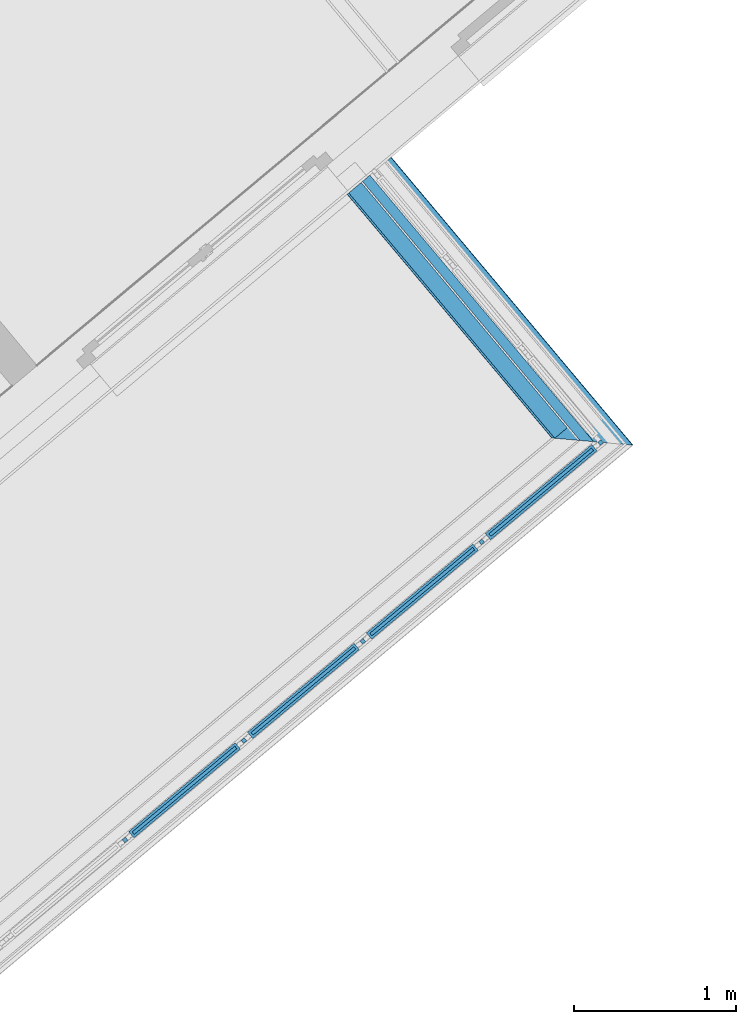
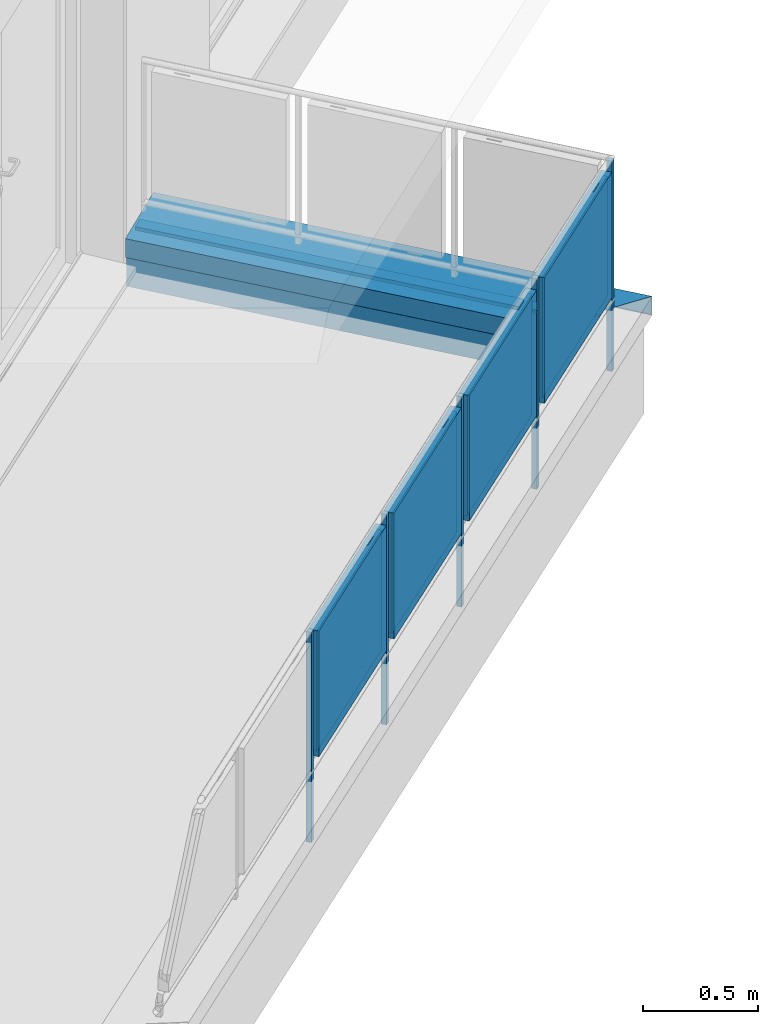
# One storey, part 23 of 53: 17 building element parts, 2 elements without a shape of their own.
"""IFC4 building model written with IfcOpenShell, lengths in metres."""

from ifc_helpers import new_model, entity, si_unit, converted_unit, derived_unit, direction, frame, origin_with_axes, place, context, subcontext, project, spatial, polygons, material, type_object, element, aggregate, save


model = new_model("IFC4")

# Units and contexts
model_context = context("Model", 3, precision=1e-05, world=origin_with_axes(), true_north=direction((0.0, 1.0)))
body_context = subcontext(model_context, "Body", "Model", "MODEL_VIEW")
ifc_project = project(units=[si_unit("LENGTHUNIT", "METRE"), si_unit("AREAUNIT", "SQUARE_METRE"), si_unit("VOLUMEUNIT", "CUBIC_METRE"), converted_unit("PLANEANGLEUNIT", "DEGREE", entity("IfcPlaneAngleMeasure", 0.0174532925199), si_unit("PLANEANGLEUNIT", "RADIAN"), dimensions=[0, 0, 0, 0, 0, 0, 0]), converted_unit("TIMEUNIT", "Year", entity("IfcTimeMeasure", 31556926.0), si_unit("TIMEUNIT", "SECOND"), dimensions=[0, 0, 1, 0, 0, 0, 0]), si_unit("MASSUNIT", "GRAM", prefix="KILO"), si_unit("THERMODYNAMICTEMPERATUREUNIT", "DEGREE_CELSIUS"), si_unit("LUMINOUSINTENSITYUNIT", "LUMEN"), si_unit("ENERGYUNIT", "JOULE", prefix="MEGA"), derived_unit("THERMALCONDUCTANCEUNIT", [(si_unit("POWERUNIT", "WATT"), 1), (si_unit("LENGTHUNIT", "METRE"), -1), (si_unit("THERMODYNAMICTEMPERATUREUNIT", "KELVIN"), -1)]), derived_unit("SPECIFICHEATCAPACITYUNIT", [(si_unit("ENERGYUNIT", "JOULE"), 1), (si_unit("MASSUNIT", "GRAM", prefix="KILO"), -1), (si_unit("THERMODYNAMICTEMPERATUREUNIT", "KELVIN"), -1)]), derived_unit("MASSDENSITYUNIT", [(si_unit("MASSUNIT", "GRAM", prefix="KILO"), 1), (si_unit("VOLUMEUNIT", "CUBIC_METRE"), -1)])], contexts=[model_context])

# Site, building, storey
site_placement = place(None, frame((-0.00153261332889, -0.00661245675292, 0.0), z_axis=(0.0, 0.0, 1.0), x_axis=(1.0, 0.0, 0.0)))
site = spatial("IfcSite", under=ifc_project, at=site_placement, Name="Gelände", CompositionType="ELEMENT")
building_placement = place(site_placement, origin_with_axes())
building = spatial("IfcBuilding", under=site, at=building_placement, Name="Gebäude", CompositionType="ELEMENT")
storey_placement = place(building_placement, frame((0.0, 0.0, 2.74), z_axis=(0.0, 0.0, 1.0), x_axis=(1.0, 0.0, 0.0)))
storey = spatial("IfcBuildingStorey", under=building, at=storey_placement, Name="OG1", CompositionType="ELEMENT", Elevation=2.74)

# Wall, building element parts
wall_type = type_object("IfcWallType", Name="Bauteil - Attika Balkon 356 x 610", PredefinedType="NOTDEFINED")
wall_placement = place(storey_placement, frame((7.00366353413, 12.2268681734, -0.2), z_axis=(0.0, 0.0, 1.0), x_axis=(-0.643026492, 0.76584393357, 0.0)))
wall = element("IfcWall", 1, at=wall_placement, inside=storey, type_object=wall_type, Name="Wand-003", PredefinedType="NOTDEFINED")
ifc_material_1 = material(Name="Stahl")
building_element_part_1_placement = place(wall_placement, origin_with_axes())
building_element_part_1 = element("IfcBuildingElementPart", 2, at=building_element_part_1_placement, material=ifc_material_1, Name="Stahl", PredefinedType="NOTDEFINED", context=body_context, shape_type="Tessellation", body=[
    polygons([(0.113856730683, 0.113600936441, 0.497561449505), (0.112897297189, 0.112643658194, 0.496604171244), (0.113852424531, 0.11168637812, 0.497561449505), (2.07193710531, 0.113600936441, 0.497561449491), (2.07193710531, 0.112643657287, 0.496604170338), (2.07193710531, 0.103427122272, 0.505820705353), (0.105574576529, 0.103427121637, 0.505820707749), (0.11140838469, 0.109247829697, 0.499999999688), (0.1124955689, 0.110332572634, 0.498915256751), (0.1138493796, 0.110332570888, 0.498915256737), (0.113856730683, 0.113600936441, 0.498915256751), (0.113853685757, 0.112247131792, 0.498915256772), (0.113856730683, 0.113600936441, 0.499999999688), (0.113856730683, 0.113600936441, 0.506731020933), (0.113856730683, 0.113600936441, 0.509099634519), (0.113856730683, 0.113600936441, 0.511410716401), (0.113856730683, 0.113600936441, 0.519273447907), (0.113856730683, 0.113600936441, 0.560000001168), (0.113856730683, 0.113600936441, 0.575576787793), (0.113856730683, 0.113600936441, 0.57982217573), (0.113856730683, 0.113600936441, 0.581921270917), (0.113856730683, 0.113600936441, 0.584015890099), (0.113856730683, 0.113600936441, 0.586106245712), (0.113856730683, 0.113600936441, 0.595846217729), (0.113856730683, 0.113600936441, 0.597151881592), (2.07193710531, 0.113600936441, 0.597151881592), (2.07193710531, -0.242707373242, 0.610055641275), (2.07193710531, -0.242707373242, 0.510056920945), (2.07193710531, -0.241750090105, 0.509099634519), (2.07193710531, -0.232580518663, 0.518269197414), (2.07193710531, -0.233490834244, 0.519273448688), (2.07193710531, -0.241353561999, 0.511410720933), (2.07193710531, -0.24135992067, 0.60865214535), (2.07193710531, -0.23927649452, 0.608570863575), (2.07193710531, 0.112247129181, 0.595846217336), (2.07193710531, 0.112247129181, 0.498915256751), (2.07193710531, 0.104431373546, 0.506731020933), (0.104666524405, 0.104431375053, 0.506731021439), (0.111412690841, 0.111162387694, 0.499999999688), (0.112499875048, 0.112247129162, 0.498915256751), (0.113853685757, 0.112247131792, 0.499999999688), (0.113853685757, 0.112247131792, 0.506731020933), (0.113853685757, 0.112247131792, 0.509099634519), (0.113853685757, 0.112247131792, 0.511410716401), (0.113853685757, 0.112247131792, 0.519273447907), (0.113853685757, 0.112247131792, 0.560000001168), (0.113853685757, 0.112247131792, 0.575576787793), (0.113853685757, 0.112247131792, 0.57982217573), (0.113853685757, 0.112247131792, 0.581921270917), (0.113853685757, 0.112247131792, 0.584015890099), (0.113853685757, 0.112247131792, 0.586106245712), (0.113853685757, 0.112247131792, 0.595846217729), (0.113772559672, 0.076177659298, 0.597151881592), (-0.202162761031, -0.201708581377, 0.608570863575), (-0.204412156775, -0.203952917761, 0.608652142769), (-0.243253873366, -0.242707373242, 0.610055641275), (-0.204499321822, -0.24270737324, 0.608652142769), (-0.241906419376, -0.242707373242, 0.60865214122), (-0.241906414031, -0.242707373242, 0.608570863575), (-0.241905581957, -0.242707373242, 0.595846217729), (-0.241904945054, -0.242707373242, 0.586106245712), (-0.241904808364, -0.242707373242, 0.584015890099), (-0.241904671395, -0.242707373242, 0.581921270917), (-0.241904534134, -0.242707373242, 0.57982217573), (-0.241904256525, -0.242707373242, 0.575576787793), (-0.241903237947, -0.242707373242, 0.560000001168), (-0.241900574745, -0.242707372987, 0.519273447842), (-0.24190006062, -0.242707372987, 0.511410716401), (-0.239985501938, -0.242707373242, 0.511410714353), (-0.241339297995, -0.242707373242, 0.510056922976), (-0.242294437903, -0.241750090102, 0.509099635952), (-0.239978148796, -0.239439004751, 0.511410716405), (-0.233104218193, -0.232580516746, 0.518269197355), (-0.234016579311, -0.233490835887, 0.519273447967), (-0.233108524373, -0.234495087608, 0.518269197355), (-0.239982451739, -0.241353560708, 0.511410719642), (-0.241897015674, -0.241353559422, 0.511410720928), (-0.241897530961, -0.241354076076, 0.519273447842), (-0.241900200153, -0.241356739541, 0.560000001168), (-0.24190122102, -0.241357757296, 0.575576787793), (-0.241901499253, -0.241358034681, 0.57982217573), (-0.241901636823, -0.241358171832, 0.581921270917), (-0.241901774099, -0.24135830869, 0.584015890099), (-0.241901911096, -0.24135844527, 0.586106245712), (-0.241902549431, -0.24135908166, 0.595846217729), (-0.241903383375, -0.241359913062, 0.608570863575), (-0.241903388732, -0.241359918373, 0.608652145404), (-0.204496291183, -0.24135992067, 0.608652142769), (-0.202247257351, -0.23927649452, 0.608570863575)], [[[1, 2, 3]], [[1, 4, 5, 2]], [[5, 6, 7, 8, 9, 10, 3, 2]], [[11, 1, 3, 10, 12]], [[1, 11, 13, 14, 15, 16, 17, 18, 19, 20, 21, 22, 23, 24, 25, 26, 4]], [[5, 4, 26, 27, 28, 29, 30, 31, 32, 33, 34, 35, 36, 37, 6]], [[6, 37, 38, 7]], [[7, 38, 39, 8]], [[39, 40, 9, 8]], [[40, 12, 10, 9]], [[13, 11, 12, 41]], [[13, 41, 42, 14]], [[15, 14, 42, 43]], [[16, 15, 43, 44]], [[17, 16, 44, 45]], [[18, 17, 45, 46]], [[19, 18, 46, 47]], [[20, 19, 47, 48]], [[21, 20, 48, 49]], [[22, 21, 49, 50]], [[23, 22, 50, 51]], [[24, 23, 51, 52]], [[25, 24, 52, 53]], [[26, 25, 54, 55, 56, 27]], [[28, 27, 56, 57, 58, 59, 60, 61, 62, 63, 64, 65, 66, 67, 68, 69, 70]], [[29, 28, 70, 71]], [[30, 29, 71, 72, 73]], [[31, 30, 73, 74]], [[32, 31, 74, 75, 76]], [[33, 32, 76, 77, 78, 79, 80, 81, 82, 83, 84, 85, 86, 87, 88]], [[34, 33, 88, 89]], [[35, 34, 89, 53, 52]], [[36, 35, 52, 51, 50, 49, 48, 47, 46, 45, 44, 43, 42, 41, 12]], [[37, 36, 12, 40, 39, 38]], [[54, 25, 53, 89]], [[55, 54, 89, 88]], [[55, 88, 57, 56]], [[57, 88, 87, 58]], [[87, 86, 59, 58]], [[85, 60, 59, 86]], [[84, 61, 60, 85]], [[84, 83, 62, 61]], [[83, 82, 63, 62]], [[82, 81, 64, 63]], [[81, 80, 65, 64]], [[80, 79, 66, 65]], [[79, 78, 67, 66]], [[78, 77, 68, 67]], [[77, 76, 69, 68]], [[76, 72, 71, 70, 69]], [[76, 75, 73, 72]], [[74, 73, 75]]], closed=True),
])
ifc_material_2 = material(Name="Holzwerkstoff")
building_element_part_2_placement = place(wall_placement, origin_with_axes())
building_element_part_2 = element("IfcBuildingElementPart", 3, at=building_element_part_2_placement, material=ifc_material_2, Name="Holzwerkstoff", PredefinedType="NOTDEFINED", context=body_context, shape_type="Tessellation", body=[
    polygons([(2.07193710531, 0.112247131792, 0.5958462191), (2.07193710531, 0.111539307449, 0.575576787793), (0.111790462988, 0.111539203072, 0.575576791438), (0.111939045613, 0.111687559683, 0.579822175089), (0.112012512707, 0.111760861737, 0.581921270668), (0.112085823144, 0.11183400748, 0.584015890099), (0.112158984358, 0.111907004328, 0.586106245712), (0.112499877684, 0.112247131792, 0.5958462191), (2.07193710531, -0.0100326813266, 0.579822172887), (2.07193710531, -0.23927649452, 0.608570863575), (2.07193710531, -0.23999998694, 0.587852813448), (2.07193710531, -0.189984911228, 0.586106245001), (2.07193710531, -0.13012497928, 0.584015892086), (2.07193710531, -0.0701429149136, 0.581921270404), (0.111665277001, -0.0100326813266, 0.579822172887), (0.111603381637, -0.0701429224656, 0.581921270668), (0.111541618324, -0.130124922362, 0.584015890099), (0.111479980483, -0.189984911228, 0.586106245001), (0.111428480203, -0.23999998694, 0.587852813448), (0.11170824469, -0.239720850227, 0.5958462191), (-0.239815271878, -0.239276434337, 0.608570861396)], [[[1, 2, 3, 4, 5, 6, 7, 8]], [[9, 2, 1, 10, 11, 12, 13, 14]], [[2, 9, 15, 3]], [[4, 3, 15]], [[5, 4, 15, 16]], [[6, 5, 16, 17]], [[7, 6, 17, 18]], [[8, 7, 18, 19, 20]], [[1, 8, 21, 10]], [[11, 10, 21, 20, 19]], [[12, 11, 19, 18]], [[13, 12, 18, 17]], [[14, 13, 17, 16]], [[9, 14, 16, 15]], [[21, 8, 20]]], closed=True),
])
ifc_material_3 = material(Name="EPS 1")
building_element_part_3_placement = place(wall_placement, origin_with_axes())
building_element_part_3 = element("IfcBuildingElementPart", 4, at=building_element_part_3_placement, material=ifc_material_3, Name="EPS 1", PredefinedType="NOTDEFINED", context=body_context, shape_type="Tessellation", body=[
    polygons([(0.100225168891, 0.0999999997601, 0.560000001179), (0.100000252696, -2.39907649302e-10, 0.560000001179), (2.07193710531, -2.39907649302e-10, 0.560000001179), (2.07193710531, 0.0999999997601, 0.560000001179), (0.100000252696, -2.39905872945e-10, 0.519273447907), (0.100225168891, 0.0999999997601, 0.519273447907), (0.100000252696, -2.39905872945e-10, 0.511410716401), (0.100000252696, -2.39905872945e-10, 0.509099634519), (0.100000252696, -2.39905872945e-10, 0.506731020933), (0.100000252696, -2.39905872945e-10, 0.499999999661), (0.100000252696, -2.39905872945e-10, 0.498915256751), (0.100000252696, -2.39905872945e-10, 0.496604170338), (0.100000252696, -2.39907649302e-10, 0.334999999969), (2.07193710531, -2.39907649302e-10, 0.334999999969), (2.07193710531, 0.0999999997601, 0.334999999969), (0.100225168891, 0.0999999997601, 0.334999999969), (0.100225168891, 0.0999999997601, 0.496604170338), (0.100225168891, 0.0999999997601, 0.498915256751), (0.100225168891, 0.0999999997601, 0.499999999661), (0.100225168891, 0.0999999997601, 0.506731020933), (0.100225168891, 0.0999999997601, 0.509099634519), (0.100225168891, 0.0999999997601, 0.511410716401)], [[[1, 2, 3, 4]], [[5, 2, 1, 6]], [[2, 5, 7, 8, 9, 10, 11, 12, 13, 14, 3]], [[14, 15, 4, 3]], [[6, 1, 4, 15, 16, 17, 18, 19, 20, 21, 22]], [[5, 6, 22, 7]], [[7, 22, 21, 8]], [[8, 21, 20, 9]], [[9, 20, 19, 10]], [[10, 19, 18, 11]], [[11, 18, 17, 12]], [[12, 17, 16, 13]], [[13, 16, 15, 14]]], closed=True),
])
ifc_material_4 = material(Name="Vollholz")
building_element_part_4_placement = place(wall_placement, origin_with_axes())
building_element_part_4 = element("IfcBuildingElementPart", 5, at=building_element_part_4_placement, material=ifc_material_4, Name="Vollholz", PredefinedType="NOTDEFINED", context=body_context, shape_type="Tessellation", body=[
    polygons([(-0.0100552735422, -0.0100326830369, 0.579822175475), (-0.0703008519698, -0.0701429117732, 0.581921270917), (2.07193710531, -0.0701429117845, 0.581921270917), (2.07193710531, -0.0100326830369, 0.579822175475), (-0.0101904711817, -0.0701429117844, 0.579822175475), (-0.0102140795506, -0.0701429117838, 0.575576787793), (-0.0103007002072, -0.0701429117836, 0.560000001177), (2.07193710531, -0.0701429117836, 0.560000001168), (2.07193710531, -0.0101429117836, 0.560000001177), (-0.0100789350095, -0.0100562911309, 0.575576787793), (-0.01016575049, -0.0101429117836, 0.560000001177)], [[[1, 2, 3, 4]], [[5, 2, 1]], [[2, 5, 6, 7, 8, 3]], [[9, 4, 3, 8]], [[10, 1, 4, 9, 11]], [[5, 1, 10, 6]], [[6, 10, 11, 7]], [[7, 11, 9, 8]]], closed=True),
])
aggregate(wall, [building_element_part_1, building_element_part_2, building_element_part_3, building_element_part_4])

# Space
space_placement = place(storey_placement, frame((5.82112883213, 13.939405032, 0.22), z_axis=(0.0, 0.0, 1.0), x_axis=(-0.766948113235, -0.641709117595, 0.0)))
space = spatial("IfcSpace", under=storey, at=space_placement, CompositionType="ELEMENT", PredefinedType="NOTDEFINED")

# Railing, building element parts
railing_type = type_object("IfcRailingType", Name="Geländerart", PredefinedType="NOTDEFINED")
railing_placement = place(space_placement, frame((8.7233739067, 0.0, 0.16), z_axis=(0.0, 0.0, 1.0), x_axis=(-0.766948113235, 0.641709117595, 0.0)))
railing = element("IfcRailing", 6, at=railing_placement, inside=space, type_object=railing_type, Name="Geländer - 001", PredefinedType="NOTDEFINED")
ifc_material_5 = material(Name="Aluminium")
building_element_part_5_placement = place(railing_placement, origin_with_axes())
building_element_part_5 = element("IfcBuildingElementPart", 7, at=building_element_part_5_placement, material=ifc_material_5, Name="Aluminium", PredefinedType="NOTDEFINED", context=body_context, shape_type="Tessellation", body=[
    polygons([(8.03183579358, 3.86996727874, -0.3), (8.01580323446, 3.88914948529, -0.3), (8.01580323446, 3.88914948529, 0.82), (8.03183579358, 3.86996727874, 0.82), (8.01265358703, 3.85393471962, -0.3), (7.99662102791, 3.87311692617, -0.3), (7.99662102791, 3.87311692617, 0.82), (8.01265358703, 3.85393471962, 0.82)], [[[1, 2, 3, 4]], [[1, 5, 6, 2]], [[2, 6, 7, 3]], [[4, 3, 7, 8]], [[5, 1, 4, 8]], [[6, 5, 8, 7]]], closed=True),
])
building_element_part_6_placement = place(railing_placement, origin_with_axes())
building_element_part_6 = element("IfcBuildingElementPart", 8, at=building_element_part_6_placement, material=ifc_material_5, Name="Aluminium", PredefinedType="NOTDEFINED", context=body_context, shape_type="Tessellation", body=[
    polygons([(5.10487304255, 1.42360099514, -0.3), (5.08884048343, 1.44278320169, -0.3), (5.08884048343, 1.44278320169, 0.82), (5.10487304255, 1.42360099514, 0.82), (5.085690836, 1.40756843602, -0.3), (5.06965827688, 1.42675064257, -0.3), (5.06965827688, 1.42675064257, 0.82), (5.085690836, 1.40756843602, 0.82)], [[[1, 2, 3, 4]], [[1, 5, 6, 2]], [[2, 6, 7, 3]], [[4, 3, 7, 8]], [[5, 1, 4, 8]], [[6, 5, 8, 7]]], closed=True),
])
ifc_material_6 = material(Name="Profilit")
building_element_part_7_placement = place(railing_placement, origin_with_axes())
building_element_part_7 = element("IfcBuildingElementPart", 9, at=building_element_part_7_placement, material=ifc_material_6, Name="Profilit", PredefinedType="NOTDEFINED", context=body_context, shape_type="Tessellation", body=[
    polygons([(5.7627195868, 2.00275561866, 0.135), (5.1307263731, 1.47453335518, 0.135), (5.1307263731, 1.47453335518, 0.775), (5.7627195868, 2.00275561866, 0.775), (5.14355242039, 1.45918758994, 0.135), (5.7755456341, 1.98740985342, 0.135), (5.14355242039, 1.45918758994, 0.775), (5.7755456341, 1.98740985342, 0.775)], [[[1, 2, 3, 4]], [[5, 2, 1, 6]], [[7, 3, 2, 5]], [[4, 3, 7, 8]], [[1, 4, 8, 6]], [[7, 5, 6, 8]]], closed=True),
])
building_element_part_8_placement = place(railing_placement, origin_with_axes())
building_element_part_8 = element("IfcBuildingElementPart", 10, at=building_element_part_8_placement, material=ifc_material_5, Name="Aluminium", PredefinedType="NOTDEFINED", context=body_context, shape_type="Tessellation", body=[
    polygons([(5.2007556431, 1.52328939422, 0.12), (5.25446582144, 1.56818055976, 0.12), (5.25446582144, 1.56818055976, 0.095), (5.2007556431, 1.52328939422, 0.095), (5.20396215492, 1.51945295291, 0.12), (5.25767233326, 1.56434411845, 0.12), (5.25767233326, 1.56434411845, 0.095), (5.20396215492, 1.51945295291, 0.095)], [[[1, 2, 3, 4]], [[5, 6, 2, 1]], [[2, 6, 7, 3]], [[4, 3, 7, 8]], [[1, 4, 8, 5]], [[8, 7, 6, 5]]], closed=True),
    polygons([(5.70230985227, 1.94249025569, 0.79), (5.64859967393, 1.89759909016, 0.79), (5.64859967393, 1.89759909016, 0.795), (5.70230985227, 1.94249025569, 0.795), (5.70551636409, 1.93865381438, 0.79), (5.65180618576, 1.89376264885, 0.79), (5.65180618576, 1.89376264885, 0.795), (5.70551636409, 1.93865381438, 0.795)], [[[1, 2, 3, 4]], [[5, 6, 2, 1]], [[2, 6, 7, 3]], [[4, 3, 7, 8]], [[1, 4, 8, 5]], [[8, 7, 6, 5]]], closed=True),
    polygons([(5.14166263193, 1.43805873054, 0.12), (5.1095975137, 1.47642314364, 0.12), (5.76460937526, 2.02388447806, 0.12), (5.7966744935, 1.98552006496, 0.12), (5.15700839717, 1.45088477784, 0.14), (5.1473888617, 1.46239410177, 0.14), (5.14355242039, 1.45918758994, 0.135), (5.1307263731, 1.47453335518, 0.135), (5.13456281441, 1.47773986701, 0.14), (5.12494327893, 1.48924919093, 0.14), (5.74926361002, 2.01105843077, 0.14), (5.74926361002, 2.01105843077, 0.77), (5.12494327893, 1.48924919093, 0.77), (5.12494327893, 1.48924919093, 0.14), (5.1095975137, 1.47642314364, 0.12), (5.1095975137, 1.47642314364, 0.79), (5.76460937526, 2.02388447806, 0.79), (5.7966744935, 1.98552006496, 0.79), (5.14166263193, 1.43805873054, 0.79), (5.14166263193, 1.43805873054, 0.12), (5.15700839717, 1.45088477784, 0.14), (5.15700839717, 1.45088477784, 0.77), (5.78132872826, 1.97269401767, 0.77), (5.78132872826, 1.97269401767, 0.14), (5.77170919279, 1.9842033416, 0.14), (5.77170919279, 1.9842033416, 0.77), (5.1473888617, 1.46239410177, 0.77), (5.1473888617, 1.46239410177, 0.14), (5.14355242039, 1.45918758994, 0.135), (5.14355242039, 1.45918758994, 0.775), (5.7755456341, 1.98740985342, 0.775), (5.7755456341, 1.98740985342, 0.135), (5.7627195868, 2.00275561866, 0.135), (5.7627195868, 2.00275561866, 0.775), (5.1307263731, 1.47453335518, 0.775), (5.1307263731, 1.47453335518, 0.135), (5.13456281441, 1.47773986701, 0.14), (5.13456281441, 1.47773986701, 0.77), (5.75888314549, 1.99954910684, 0.77), (5.75888314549, 1.99954910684, 0.14)], [[[1, 2, 3, 4]], [[1, 5, 6, 7, 8, 9, 10, 2]], [[2, 10, 11, 12, 13, 14, 15, 16, 17, 3]], [[4, 3, 17, 18]], [[5, 1, 4, 18, 19, 20, 21, 22, 23, 24]], [[6, 5, 24, 25]], [[7, 6, 25, 26, 27, 28, 29, 30, 31, 32]], [[8, 7, 32, 33]], [[9, 8, 33, 34, 35, 36, 37, 38, 39, 40]], [[10, 9, 40, 11]], [[11, 40, 39, 12]], [[12, 39, 38, 13]], [[13, 38, 37, 14]], [[20, 15, 14, 37, 36, 29, 28, 21]], [[19, 16, 15, 20]], [[18, 17, 16, 19]], [[27, 22, 21, 28]], [[26, 23, 22, 27]], [[25, 24, 23, 26]], [[35, 30, 29, 36]], [[34, 31, 30, 35]], [[33, 32, 31, 34]]], closed=True),
])
building_element_part_9_placement = place(railing_placement, origin_with_axes())
building_element_part_9 = element("IfcBuildingElementPart", 11, at=building_element_part_9_placement, material=ifc_material_5, Name="Aluminium", PredefinedType="NOTDEFINED", context=body_context, shape_type="Tessellation", body=[
    polygons([(5.83661373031, 2.03519256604, -0.3), (5.82058117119, 2.05437477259, -0.3), (5.82058117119, 2.05437477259, 0.82), (5.83661373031, 2.03519256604, 0.82), (5.81743152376, 2.01916000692, -0.3), (5.80139896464, 2.03834221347, -0.3), (5.80139896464, 2.03834221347, 0.82), (5.81743152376, 2.01916000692, 0.82)], [[[1, 2, 3, 4]], [[1, 5, 6, 2]], [[2, 6, 7, 3]], [[4, 3, 7, 8]], [[5, 1, 4, 8]], [[6, 5, 8, 7]]], closed=True),
])
building_element_part_10_placement = place(railing_placement, origin_with_axes())
building_element_part_10 = element("IfcBuildingElementPart", 12, at=building_element_part_10_placement, material=ifc_material_6, Name="Profilit", PredefinedType="NOTDEFINED", context=body_context, shape_type="Tessellation", body=[
    polygons([(6.49446027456, 2.61434718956, 0.135), (5.86246706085, 2.08612492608, 0.135), (5.86246706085, 2.08612492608, 0.775), (6.49446027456, 2.61434718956, 0.775), (5.87529310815, 2.07077916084, 0.135), (6.50728632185, 2.59900142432, 0.135), (5.87529310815, 2.07077916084, 0.775), (6.50728632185, 2.59900142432, 0.775)], [[[1, 2, 3, 4]], [[5, 2, 1, 6]], [[7, 3, 2, 5]], [[4, 3, 7, 8]], [[1, 4, 8, 6]], [[7, 5, 6, 8]]], closed=True),
])
building_element_part_11_placement = place(railing_placement, origin_with_axes())
building_element_part_11 = element("IfcBuildingElementPart", 13, at=building_element_part_11_placement, material=ifc_material_5, Name="Aluminium", PredefinedType="NOTDEFINED", context=body_context, shape_type="Tessellation", body=[
    polygons([(5.93249633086, 2.13488096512, 0.12), (5.98620650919, 2.17977213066, 0.12), (5.98620650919, 2.17977213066, 0.095), (5.93249633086, 2.13488096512, 0.095), (5.93570284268, 2.13104452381, 0.12), (5.98941302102, 2.17593568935, 0.12), (5.98941302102, 2.17593568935, 0.095), (5.93570284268, 2.13104452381, 0.095)], [[[1, 2, 3, 4]], [[5, 6, 2, 1]], [[2, 6, 7, 3]], [[4, 3, 7, 8]], [[1, 4, 8, 5]], [[8, 7, 6, 5]]], closed=True),
    polygons([(6.43405054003, 2.55408182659, 0.79), (6.38034036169, 2.50919066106, 0.79), (6.38034036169, 2.50919066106, 0.795), (6.43405054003, 2.55408182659, 0.795), (6.43725705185, 2.55024538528, 0.79), (6.38354687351, 2.50535421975, 0.79), (6.38354687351, 2.50535421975, 0.795), (6.43725705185, 2.55024538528, 0.795)], [[[1, 2, 3, 4]], [[5, 6, 2, 1]], [[2, 6, 7, 3]], [[4, 3, 7, 8]], [[1, 4, 8, 5]], [[8, 7, 6, 5]]], closed=True),
    polygons([(5.87340331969, 2.04965030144, 0.12), (5.84133820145, 2.08801471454, 0.12), (6.49635006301, 2.63547604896, 0.12), (6.52841518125, 2.59711163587, 0.12), (5.88874908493, 2.06247634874, 0.14), (5.87912954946, 2.07398567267, 0.14), (5.87529310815, 2.07077916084, 0.135), (5.86246706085, 2.08612492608, 0.135), (5.86630350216, 2.08933143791, 0.14), (5.85668396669, 2.10084076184, 0.14), (6.48100429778, 2.62265000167, 0.14), (6.48100429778, 2.62265000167, 0.77), (5.85668396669, 2.10084076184, 0.77), (5.85668396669, 2.10084076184, 0.14), (5.84133820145, 2.08801471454, 0.12), (5.84133820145, 2.08801471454, 0.79), (6.49635006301, 2.63547604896, 0.79), (6.52841518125, 2.59711163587, 0.79), (5.87340331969, 2.04965030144, 0.79), (5.87340331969, 2.04965030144, 0.12), (5.88874908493, 2.06247634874, 0.14), (5.88874908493, 2.06247634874, 0.77), (6.51306941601, 2.58428558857, 0.77), (6.51306941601, 2.58428558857, 0.14), (6.50344988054, 2.5957949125, 0.14), (6.50344988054, 2.5957949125, 0.77), (5.87912954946, 2.07398567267, 0.77), (5.87912954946, 2.07398567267, 0.14), (5.87529310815, 2.07077916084, 0.135), (5.87529310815, 2.07077916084, 0.775), (6.50728632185, 2.59900142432, 0.775), (6.50728632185, 2.59900142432, 0.135), (6.49446027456, 2.61434718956, 0.135), (6.49446027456, 2.61434718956, 0.775), (5.86246706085, 2.08612492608, 0.775), (5.86246706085, 2.08612492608, 0.135), (5.86630350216, 2.08933143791, 0.14), (5.86630350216, 2.08933143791, 0.77), (6.49062383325, 2.61114067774, 0.77), (6.49062383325, 2.61114067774, 0.14)], [[[1, 2, 3, 4]], [[1, 5, 6, 7, 8, 9, 10, 2]], [[2, 10, 11, 12, 13, 14, 15, 16, 17, 3]], [[4, 3, 17, 18]], [[5, 1, 4, 18, 19, 20, 21, 22, 23, 24]], [[6, 5, 24, 25]], [[7, 6, 25, 26, 27, 28, 29, 30, 31, 32]], [[8, 7, 32, 33]], [[9, 8, 33, 34, 35, 36, 37, 38, 39, 40]], [[10, 9, 40, 11]], [[11, 40, 39, 12]], [[12, 39, 38, 13]], [[13, 38, 37, 14]], [[20, 15, 14, 37, 36, 29, 28, 21]], [[19, 16, 15, 20]], [[18, 17, 16, 19]], [[27, 22, 21, 28]], [[26, 23, 22, 27]], [[25, 24, 23, 26]], [[35, 30, 29, 36]], [[34, 31, 30, 35]], [[33, 32, 31, 34]]], closed=True),
])
building_element_part_12_placement = place(railing_placement, origin_with_axes())
building_element_part_12 = element("IfcBuildingElementPart", 14, at=building_element_part_12_placement, material=ifc_material_5, Name="Aluminium", PredefinedType="NOTDEFINED", context=body_context, shape_type="Tessellation", body=[
    polygons([(6.56835441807, 2.64678413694, -0.3), (6.55232185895, 2.66596634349, -0.3), (6.55232185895, 2.66596634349, 0.82), (6.56835441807, 2.64678413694, 0.82), (6.54917221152, 2.63075157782, -0.3), (6.5331396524, 2.64993378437, -0.3), (6.5331396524, 2.64993378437, 0.82), (6.54917221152, 2.63075157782, 0.82)], [[[1, 2, 3, 4]], [[1, 5, 6, 2]], [[2, 6, 7, 3]], [[4, 3, 7, 8]], [[5, 1, 4, 8]], [[6, 5, 8, 7]]], closed=True),
])
building_element_part_13_placement = place(railing_placement, origin_with_axes())
building_element_part_13 = element("IfcBuildingElementPart", 15, at=building_element_part_13_placement, material=ifc_material_6, Name="Profilit", PredefinedType="NOTDEFINED", context=body_context, shape_type="Tessellation", body=[
    polygons([(7.22620096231, 3.22593876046, 0.135), (6.59420774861, 2.69771649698, 0.135), (6.59420774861, 2.69771649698, 0.775), (7.22620096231, 3.22593876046, 0.775), (6.60703379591, 2.68237073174, 0.135), (7.23902700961, 3.21059299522, 0.135), (6.60703379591, 2.68237073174, 0.775), (7.23902700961, 3.21059299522, 0.775)], [[[1, 2, 3, 4]], [[5, 2, 1, 6]], [[7, 3, 2, 5]], [[4, 3, 7, 8]], [[1, 4, 8, 6]], [[7, 5, 6, 8]]], closed=True),
])
building_element_part_14_placement = place(railing_placement, origin_with_axes())
building_element_part_14 = element("IfcBuildingElementPart", 16, at=building_element_part_14_placement, material=ifc_material_5, Name="Aluminium", PredefinedType="NOTDEFINED", context=body_context, shape_type="Tessellation", body=[
    polygons([(6.66423701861, 2.74647253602, 0.12), (6.71794719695, 2.79136370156, 0.12), (6.71794719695, 2.79136370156, 0.095), (6.66423701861, 2.74647253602, 0.095), (6.66744353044, 2.74263609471, 0.12), (6.72115370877, 2.78752726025, 0.12), (6.72115370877, 2.78752726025, 0.095), (6.66744353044, 2.74263609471, 0.095)], [[[1, 2, 3, 4]], [[5, 6, 2, 1]], [[2, 6, 7, 3]], [[4, 3, 7, 8]], [[1, 4, 8, 5]], [[8, 7, 6, 5]]], closed=True),
    polygons([(7.16579122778, 3.16567339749, 0.79), (7.11208104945, 3.12078223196, 0.79), (7.11208104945, 3.12078223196, 0.795), (7.16579122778, 3.16567339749, 0.795), (7.16899773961, 3.16183695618, 0.79), (7.11528756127, 3.11694579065, 0.79), (7.11528756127, 3.11694579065, 0.795), (7.16899773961, 3.16183695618, 0.795)], [[[1, 2, 3, 4]], [[5, 6, 2, 1]], [[2, 6, 7, 3]], [[4, 3, 7, 8]], [[1, 4, 8, 5]], [[8, 7, 6, 5]]], closed=True),
    polygons([(6.60514400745, 2.66124187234, 0.12), (6.57307888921, 2.69960628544, 0.12), (7.22809075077, 3.24706761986, 0.12), (7.26015586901, 3.20870320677, 0.12), (6.62048977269, 2.67406791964, 0.14), (6.61087023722, 2.68557724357, 0.14), (6.60703379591, 2.68237073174, 0.135), (6.59420774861, 2.69771649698, 0.135), (6.59804418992, 2.70092300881, 0.14), (6.58842465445, 2.71243233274, 0.14), (7.21274498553, 3.23424157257, 0.14), (7.21274498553, 3.23424157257, 0.77), (6.58842465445, 2.71243233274, 0.77), (6.58842465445, 2.71243233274, 0.14), (6.57307888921, 2.69960628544, 0.12), (6.57307888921, 2.69960628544, 0.79), (7.22809075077, 3.24706761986, 0.79), (7.26015586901, 3.20870320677, 0.79), (6.60514400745, 2.66124187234, 0.79), (6.60514400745, 2.66124187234, 0.12), (6.62048977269, 2.67406791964, 0.14), (6.62048977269, 2.67406791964, 0.77), (7.24481010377, 3.19587715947, 0.77), (7.24481010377, 3.19587715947, 0.14), (7.2351905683, 3.2073864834, 0.14), (7.2351905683, 3.2073864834, 0.77), (6.61087023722, 2.68557724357, 0.77), (6.61087023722, 2.68557724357, 0.14), (6.60703379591, 2.68237073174, 0.135), (6.60703379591, 2.68237073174, 0.775), (7.23902700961, 3.21059299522, 0.775), (7.23902700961, 3.21059299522, 0.135), (7.22620096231, 3.22593876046, 0.135), (7.22620096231, 3.22593876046, 0.775), (6.59420774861, 2.69771649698, 0.775), (6.59420774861, 2.69771649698, 0.135), (6.59804418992, 2.70092300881, 0.14), (6.59804418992, 2.70092300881, 0.77), (7.222364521, 3.22273224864, 0.77), (7.222364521, 3.22273224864, 0.14)], [[[1, 2, 3, 4]], [[1, 5, 6, 7, 8, 9, 10, 2]], [[2, 10, 11, 12, 13, 14, 15, 16, 17, 3]], [[4, 3, 17, 18]], [[5, 1, 4, 18, 19, 20, 21, 22, 23, 24]], [[6, 5, 24, 25]], [[7, 6, 25, 26, 27, 28, 29, 30, 31, 32]], [[8, 7, 32, 33]], [[9, 8, 33, 34, 35, 36, 37, 38, 39, 40]], [[10, 9, 40, 11]], [[11, 40, 39, 12]], [[12, 39, 38, 13]], [[13, 38, 37, 14]], [[20, 15, 14, 37, 36, 29, 28, 21]], [[19, 16, 15, 20]], [[18, 17, 16, 19]], [[27, 22, 21, 28]], [[26, 23, 22, 27]], [[25, 24, 23, 26]], [[35, 30, 29, 36]], [[34, 31, 30, 35]], [[33, 32, 31, 34]]], closed=True),
])
building_element_part_15_placement = place(railing_placement, origin_with_axes())
building_element_part_15 = element("IfcBuildingElementPart", 17, at=building_element_part_15_placement, material=ifc_material_5, Name="Aluminium", PredefinedType="NOTDEFINED", context=body_context, shape_type="Tessellation", body=[
    polygons([(7.30009510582, 3.25837570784, -0.3), (7.2840625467, 3.27755791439, -0.3), (7.2840625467, 3.27755791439, 0.82), (7.30009510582, 3.25837570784, 0.82), (7.28091289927, 3.24234314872, -0.3), (7.26488034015, 3.26152535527, -0.3), (7.26488034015, 3.26152535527, 0.82), (7.28091289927, 3.24234314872, 0.82)], [[[1, 2, 3, 4]], [[1, 5, 6, 2]], [[2, 6, 7, 3]], [[4, 3, 7, 8]], [[5, 1, 4, 8]], [[6, 5, 8, 7]]], closed=True),
])
building_element_part_16_placement = place(railing_placement, origin_with_axes())
building_element_part_16 = element("IfcBuildingElementPart", 18, at=building_element_part_16_placement, material=ifc_material_6, Name="Profilit", PredefinedType="NOTDEFINED", context=body_context, shape_type="Tessellation", body=[
    polygons([(7.95794165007, 3.83753033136, 0.135), (7.32594843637, 3.30930806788, 0.135), (7.32594843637, 3.30930806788, 0.775), (7.95794165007, 3.83753033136, 0.775), (7.33877448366, 3.29396230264, 0.135), (7.97076769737, 3.82218456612, 0.135), (7.33877448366, 3.29396230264, 0.775), (7.97076769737, 3.82218456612, 0.775)], [[[1, 2, 3, 4]], [[5, 2, 1, 6]], [[7, 3, 2, 5]], [[4, 3, 7, 8]], [[1, 4, 8, 6]], [[7, 5, 6, 8]]], closed=True),
])
building_element_part_17_placement = place(railing_placement, origin_with_axes())
building_element_part_17 = element("IfcBuildingElementPart", 19, at=building_element_part_17_placement, material=ifc_material_5, Name="Aluminium", PredefinedType="NOTDEFINED", context=body_context, shape_type="Tessellation", body=[
    polygons([(7.39597770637, 3.35806410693, 0.12), (7.44968788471, 3.40295527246, 0.12), (7.44968788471, 3.40295527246, 0.095), (7.39597770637, 3.35806410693, 0.095), (7.39918421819, 3.35422766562, 0.12), (7.45289439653, 3.39911883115, 0.12), (7.45289439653, 3.39911883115, 0.095), (7.39918421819, 3.35422766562, 0.095)], [[[1, 2, 3, 4]], [[5, 6, 2, 1]], [[2, 6, 7, 3]], [[4, 3, 7, 8]], [[1, 4, 8, 5]], [[8, 7, 6, 5]]], closed=True),
    polygons([(7.89753191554, 3.77726496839, 0.79), (7.8438217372, 3.73237380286, 0.79), (7.8438217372, 3.73237380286, 0.795), (7.89753191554, 3.77726496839, 0.795), (7.90073842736, 3.77342852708, 0.79), (7.84702824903, 3.72853736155, 0.79), (7.84702824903, 3.72853736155, 0.795), (7.90073842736, 3.77342852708, 0.795)], [[[1, 2, 3, 4]], [[5, 6, 2, 1]], [[2, 6, 7, 3]], [[4, 3, 7, 8]], [[1, 4, 8, 5]], [[8, 7, 6, 5]]], closed=True),
    polygons([(7.33688469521, 3.27283344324, 0.12), (7.30481957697, 3.31119785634, 0.12), (7.95983143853, 3.85865919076, 0.12), (7.99189655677, 3.82029477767, 0.12), (7.35223046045, 3.28565949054, 0.14), (7.34261092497, 3.29716881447, 0.14), (7.33877448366, 3.29396230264, 0.135), (7.32594843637, 3.30930806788, 0.135), (7.32978487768, 3.31251457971, 0.14), (7.32016534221, 3.32402390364, 0.14), (7.94448567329, 3.84583314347, 0.14), (7.94448567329, 3.84583314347, 0.77), (7.32016534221, 3.32402390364, 0.77), (7.32016534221, 3.32402390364, 0.14), (7.30481957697, 3.31119785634, 0.12), (7.30481957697, 3.31119785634, 0.79), (7.95983143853, 3.85865919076, 0.79), (7.99189655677, 3.82029477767, 0.79), (7.33688469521, 3.27283344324, 0.79), (7.33688469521, 3.27283344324, 0.12), (7.35223046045, 3.28565949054, 0.14), (7.35223046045, 3.28565949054, 0.77), (7.97655079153, 3.80746873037, 0.77), (7.97655079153, 3.80746873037, 0.14), (7.96693125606, 3.8189780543, 0.14), (7.96693125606, 3.8189780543, 0.77), (7.34261092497, 3.29716881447, 0.77), (7.34261092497, 3.29716881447, 0.14), (7.33877448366, 3.29396230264, 0.135), (7.33877448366, 3.29396230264, 0.775), (7.97076769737, 3.82218456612, 0.775), (7.97076769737, 3.82218456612, 0.135), (7.95794165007, 3.83753033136, 0.135), (7.95794165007, 3.83753033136, 0.775), (7.32594843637, 3.30930806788, 0.775), (7.32594843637, 3.30930806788, 0.135), (7.32978487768, 3.31251457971, 0.14), (7.32978487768, 3.31251457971, 0.77), (7.95410520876, 3.83432381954, 0.77), (7.95410520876, 3.83432381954, 0.14)], [[[1, 2, 3, 4]], [[1, 5, 6, 7, 8, 9, 10, 2]], [[2, 10, 11, 12, 13, 14, 15, 16, 17, 3]], [[4, 3, 17, 18]], [[5, 1, 4, 18, 19, 20, 21, 22, 23, 24]], [[6, 5, 24, 25]], [[7, 6, 25, 26, 27, 28, 29, 30, 31, 32]], [[8, 7, 32, 33]], [[9, 8, 33, 34, 35, 36, 37, 38, 39, 40]], [[10, 9, 40, 11]], [[11, 40, 39, 12]], [[12, 39, 38, 13]], [[13, 38, 37, 14]], [[20, 15, 14, 37, 36, 29, 28, 21]], [[19, 16, 15, 20]], [[18, 17, 16, 19]], [[27, 22, 21, 28]], [[26, 23, 22, 27]], [[25, 24, 23, 26]], [[35, 30, 29, 36]], [[34, 31, 30, 35]], [[33, 32, 31, 34]]], closed=True),
])
aggregate(railing, [building_element_part_5, building_element_part_6, building_element_part_7, building_element_part_8, building_element_part_9, building_element_part_10, building_element_part_11, building_element_part_12, building_element_part_13, building_element_part_14, building_element_part_15, building_element_part_16, building_element_part_17])

save(model, "model.ifc")
